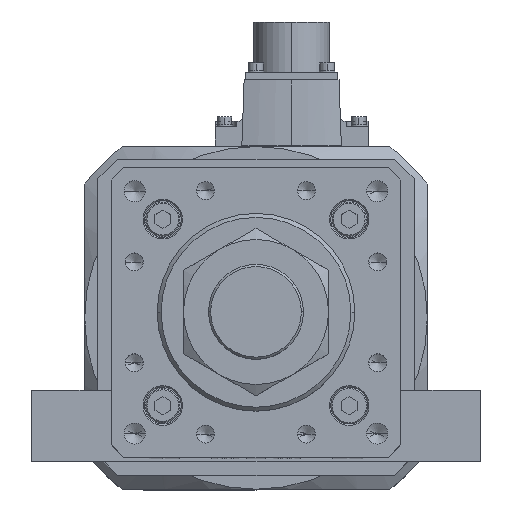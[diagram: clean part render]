
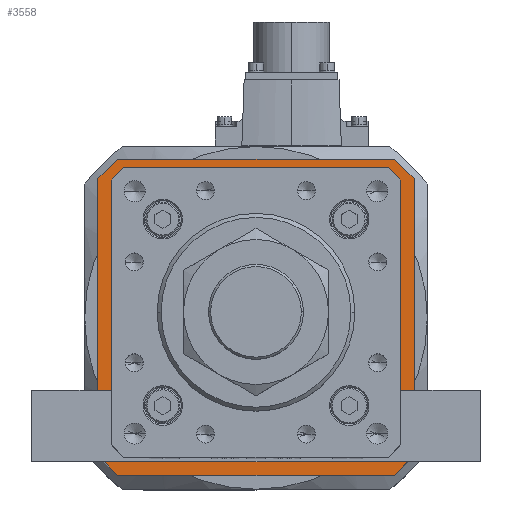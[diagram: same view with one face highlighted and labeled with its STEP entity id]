
A CAD part, top view. The second image highlights one B-rep face of the part: STEP entity #3558.
In plain terms, the highlighted planar face has unit normal (0, 0, 1).
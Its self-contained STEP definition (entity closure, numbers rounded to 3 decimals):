
#89 = LINE ( 'NONE', #27857, #22259 ) ;
#107 = LINE ( 'NONE', #15504, #14826 ) ;
#558 = LINE ( 'NONE', #12877, #21817 ) ;
#713 = CARTESIAN_POINT ( 'NONE',  ( -60., 52.5, -119. ) ) ;
#1223 = CARTESIAN_POINT ( 'NONE',  ( -53.5, 49.8, -119. ) ) ;
#1640 = CARTESIAN_POINT ( 'NONE',  ( 52.5, -60., -119. ) ) ;
#2357 = DIRECTION ( 'NONE',  ( -1., 0., 0. ) ) ;
#2417 = LINE ( 'NONE', #36794, #6552 ) ;
#3558 = ADVANCED_FACE ( 'NONE', ( #29560, #16529 ), #7676, .T. ) ;
#4307 = VECTOR ( 'NONE', #10458, 1000. ) ;
#4439 = VERTEX_POINT ( 'NONE', #36044 ) ;
#4874 = CARTESIAN_POINT ( 'NONE',  ( -60., 52.5, -119. ) ) ;
#5830 = EDGE_CURVE ( 'NONE', #9405, #15695, #21047, .T. ) ;
#6274 = CARTESIAN_POINT ( 'NONE',  ( -49.593, -53.5, -119. ) ) ;
#6285 = DIRECTION ( 'NONE',  ( 1., 0., 0. ) ) ;
#6552 = VECTOR ( 'NONE', #30591, 1000. ) ;
#7392 = DIRECTION ( 'NONE',  ( 0.707, -0.707, 0. ) ) ;
#7676 = PLANE ( 'NONE',  #20503 ) ;
#7787 = LINE ( 'NONE', #4874, #10549 ) ;
#8329 = CARTESIAN_POINT ( 'NONE',  ( -52.5, 60., -119. ) ) ;
#8768 = CARTESIAN_POINT ( 'NONE',  ( 53.5, 49.593, -119. ) ) ;
#8844 = EDGE_LOOP ( 'NONE', ( #16581, #21971, #36862, #19623, #16573, #17617, #15767, #16160 ) ) ;
#9405 = VERTEX_POINT ( 'NONE', #26983 ) ;
#9468 = VECTOR ( 'NONE', #18113, 1000. ) ;
#10311 = VERTEX_POINT ( 'NONE', #713 ) ;
#10458 = DIRECTION ( 'NONE',  ( 0., -1., 0. ) ) ;
#10549 = VECTOR ( 'NONE', #16419, 1000. ) ;
#11099 = CARTESIAN_POINT ( 'NONE',  ( -49.8, -53.5, -119. ) ) ;
#11194 = EDGE_LOOP ( 'NONE', ( #22898, #14301, #29433, #36226, #29568, #33780, #12321, #11992 ) ) ;
#11195 = LINE ( 'NONE', #22221, #4307 ) ;
#11333 = CARTESIAN_POINT ( 'NONE',  ( -52.5, 60., -119. ) ) ;
#11992 = ORIENTED_EDGE ( 'NONE', *, *, #13550, .F. ) ;
#12021 = CARTESIAN_POINT ( 'NONE',  ( -52.5, -60., -119. ) ) ;
#12069 = CARTESIAN_POINT ( 'NONE',  ( 52.5, 60., -119. ) ) ;
#12321 = ORIENTED_EDGE ( 'NONE', *, *, #36809, .F. ) ;
#12877 = CARTESIAN_POINT ( 'NONE',  ( 60., 52.5, -119. ) ) ;
#13043 = VECTOR ( 'NONE', #21957, 1000. ) ;
#13046 = LINE ( 'NONE', #12021, #21860 ) ;
#13071 = EDGE_CURVE ( 'NONE', #28304, #24591, #89, .T. ) ;
#13126 = EDGE_CURVE ( 'NONE', #24591, #18485, #2417, .T. ) ;
#13303 = EDGE_CURVE ( 'NONE', #4439, #37091, #19907, .T. ) ;
#13550 = EDGE_CURVE ( 'NONE', #18203, #31596, #14327, .T. ) ;
#13641 = CARTESIAN_POINT ( 'NONE',  ( -53.646, -49.446, -119. ) ) ;
#13717 = DIRECTION ( 'NONE',  ( 0.707, 0.707, 0. ) ) ;
#13846 = LINE ( 'NONE', #8329, #17046 ) ;
#14301 = ORIENTED_EDGE ( 'NONE', *, *, #37966, .F. ) ;
#14327 = LINE ( 'NONE', #32884, #25929 ) ;
#14487 = EDGE_CURVE ( 'NONE', #15695, #17296, #28826, .T. ) ;
#14826 = VECTOR ( 'NONE', #15743, 1000. ) ;
#15231 = EDGE_CURVE ( 'NONE', #31069, #4439, #18217, .T. ) ;
#15504 = CARTESIAN_POINT ( 'NONE',  ( 49.446, -53.646, -119. ) ) ;
#15695 = VERTEX_POINT ( 'NONE', #6274 ) ;
#15743 = DIRECTION ( 'NONE',  ( -0.707, -0.707, 0. ) ) ;
#15767 = ORIENTED_EDGE ( 'NONE', *, *, #23957, .T. ) ;
#16160 = ORIENTED_EDGE ( 'NONE', *, *, #13071, .T. ) ;
#16419 = DIRECTION ( 'NONE',  ( 0., 1., 0. ) ) ;
#16444 = CARTESIAN_POINT ( 'NONE',  ( -49.593, 53.5, -119. ) ) ;
#16529 = FACE_OUTER_BOUND ( 'NONE', #11194, .T. ) ;
#16573 = ORIENTED_EDGE ( 'NONE', *, *, #5830, .T. ) ;
#16581 = ORIENTED_EDGE ( 'NONE', *, *, #13126, .T. ) ;
#16818 = VERTEX_POINT ( 'NONE', #31113 ) ;
#17046 = VECTOR ( 'NONE', #13717, 1000. ) ;
#17296 = VERTEX_POINT ( 'NONE', #23997 ) ;
#17617 = ORIENTED_EDGE ( 'NONE', *, *, #14487, .T. ) ;
#17987 = CARTESIAN_POINT ( 'NONE',  ( 60., -52.5, -119. ) ) ;
#18113 = DIRECTION ( 'NONE',  ( -0.707, -0.707, 0. ) ) ;
#18203 = VERTEX_POINT ( 'NONE', #19565 ) ;
#18217 = LINE ( 'NONE', #17987, #9468 ) ;
#18485 = VERTEX_POINT ( 'NONE', #20859 ) ;
#18529 = EDGE_CURVE ( 'NONE', #36724, #18203, #35127, .T. ) ;
#19562 = CARTESIAN_POINT ( 'NONE',  ( 60., 52.5, -119. ) ) ;
#19565 = CARTESIAN_POINT ( 'NONE',  ( 52.5, 60., -119. ) ) ;
#19623 = ORIENTED_EDGE ( 'NONE', *, *, #25545, .T. ) ;
#19657 = DIRECTION ( 'NONE',  ( 0., 0., 1. ) ) ;
#19907 = LINE ( 'NONE', #1640, #31951 ) ;
#20115 = VECTOR ( 'NONE', #2357, 1000. ) ;
#20503 = AXIS2_PLACEMENT_3D ( 'NONE', #34426, #19657, #37658 ) ;
#20859 = CARTESIAN_POINT ( 'NONE',  ( 49.593, 53.5, -119. ) ) ;
#21047 = LINE ( 'NONE', #11099, #20115 ) ;
#21247 = VECTOR ( 'NONE', #6285, 1000. ) ;
#21817 = VECTOR ( 'NONE', #23903, 1000. ) ;
#21860 = VECTOR ( 'NONE', #27674, 1000. ) ;
#21957 = DIRECTION ( 'NONE',  ( -0.707, 0.707, 0. ) ) ;
#21971 = ORIENTED_EDGE ( 'NONE', *, *, #33377, .T. ) ;
#22221 = CARTESIAN_POINT ( 'NONE',  ( 53.5, -49.8, -119. ) ) ;
#22259 = VECTOR ( 'NONE', #30849, 1000. ) ;
#22898 = ORIENTED_EDGE ( 'NONE', *, *, #18529, .F. ) ;
#23718 = DIRECTION ( 'NONE',  ( 0.707, -0.707, 0. ) ) ;
#23903 = DIRECTION ( 'NONE',  ( 0., -1., 0. ) ) ;
#23957 = EDGE_CURVE ( 'NONE', #17296, #28304, #37209, .T. ) ;
#23997 = CARTESIAN_POINT ( 'NONE',  ( -53.5, -49.593, -119. ) ) ;
#24591 = VERTEX_POINT ( 'NONE', #16444 ) ;
#24893 = VERTEX_POINT ( 'NONE', #8768 ) ;
#25545 = EDGE_CURVE ( 'NONE', #35935, #9405, #107, .T. ) ;
#25929 = VECTOR ( 'NONE', #23718, 1000. ) ;
#26983 = CARTESIAN_POINT ( 'NONE',  ( 49.593, -53.5, -119. ) ) ;
#27444 = DIRECTION ( 'NONE',  ( 0., 1., 0. ) ) ;
#27674 = DIRECTION ( 'NONE',  ( -0.707, 0.707, 0. ) ) ;
#27857 = CARTESIAN_POINT ( 'NONE',  ( -49.446, 53.646, -119. ) ) ;
#28304 = VERTEX_POINT ( 'NONE', #28805 ) ;
#28395 = VECTOR ( 'NONE', #27444, 1000. ) ;
#28470 = CARTESIAN_POINT ( 'NONE',  ( 53.5, -49.593, -119. ) ) ;
#28557 = CARTESIAN_POINT ( 'NONE',  ( 60., -52.5, -119. ) ) ;
#28560 = CARTESIAN_POINT ( 'NONE',  ( 53.646, 49.446, -119. ) ) ;
#28805 = CARTESIAN_POINT ( 'NONE',  ( -53.5, 49.593, -119. ) ) ;
#28826 = LINE ( 'NONE', #13641, #13043 ) ;
#29079 = EDGE_CURVE ( 'NONE', #37091, #16818, #13046, .T. ) ;
#29244 = EDGE_CURVE ( 'NONE', #24893, #35935, #11195, .T. ) ;
#29433 = ORIENTED_EDGE ( 'NONE', *, *, #31544, .F. ) ;
#29560 = FACE_BOUND ( 'NONE', #8844, .T. ) ;
#29568 = ORIENTED_EDGE ( 'NONE', *, *, #13303, .F. ) ;
#30591 = DIRECTION ( 'NONE',  ( 1., 0., 0. ) ) ;
#30849 = DIRECTION ( 'NONE',  ( 0.707, 0.707, 0. ) ) ;
#31069 = VERTEX_POINT ( 'NONE', #28557 ) ;
#31113 = CARTESIAN_POINT ( 'NONE',  ( -60., -52.5, -119. ) ) ;
#31223 = DIRECTION ( 'NONE',  ( -1., 0., 0. ) ) ;
#31544 = EDGE_CURVE ( 'NONE', #16818, #10311, #7787, .T. ) ;
#31596 = VERTEX_POINT ( 'NONE', #19562 ) ;
#31951 = VECTOR ( 'NONE', #31223, 1000. ) ;
#32871 = CARTESIAN_POINT ( 'NONE',  ( -52.5, -60., -119. ) ) ;
#32884 = CARTESIAN_POINT ( 'NONE',  ( 60., 52.5, -119. ) ) ;
#33377 = EDGE_CURVE ( 'NONE', #18485, #24893, #36405, .T. ) ;
#33780 = ORIENTED_EDGE ( 'NONE', *, *, #15231, .F. ) ;
#34426 = CARTESIAN_POINT ( 'NONE',  ( 0., 0., -119. ) ) ;
#34540 = VECTOR ( 'NONE', #7392, 1000. ) ;
#35127 = LINE ( 'NONE', #12069, #21247 ) ;
#35935 = VERTEX_POINT ( 'NONE', #28470 ) ;
#36044 = CARTESIAN_POINT ( 'NONE',  ( 52.5, -60., -119. ) ) ;
#36226 = ORIENTED_EDGE ( 'NONE', *, *, #29079, .F. ) ;
#36405 = LINE ( 'NONE', #28560, #34540 ) ;
#36724 = VERTEX_POINT ( 'NONE', #11333 ) ;
#36794 = CARTESIAN_POINT ( 'NONE',  ( 49.8, 53.5, -119. ) ) ;
#36809 = EDGE_CURVE ( 'NONE', #31596, #31069, #558, .T. ) ;
#36862 = ORIENTED_EDGE ( 'NONE', *, *, #29244, .T. ) ;
#37091 = VERTEX_POINT ( 'NONE', #32871 ) ;
#37209 = LINE ( 'NONE', #1223, #28395 ) ;
#37658 = DIRECTION ( 'NONE',  ( 1., 0., 0. ) ) ;
#37966 = EDGE_CURVE ( 'NONE', #10311, #36724, #13846, .T. ) ;
